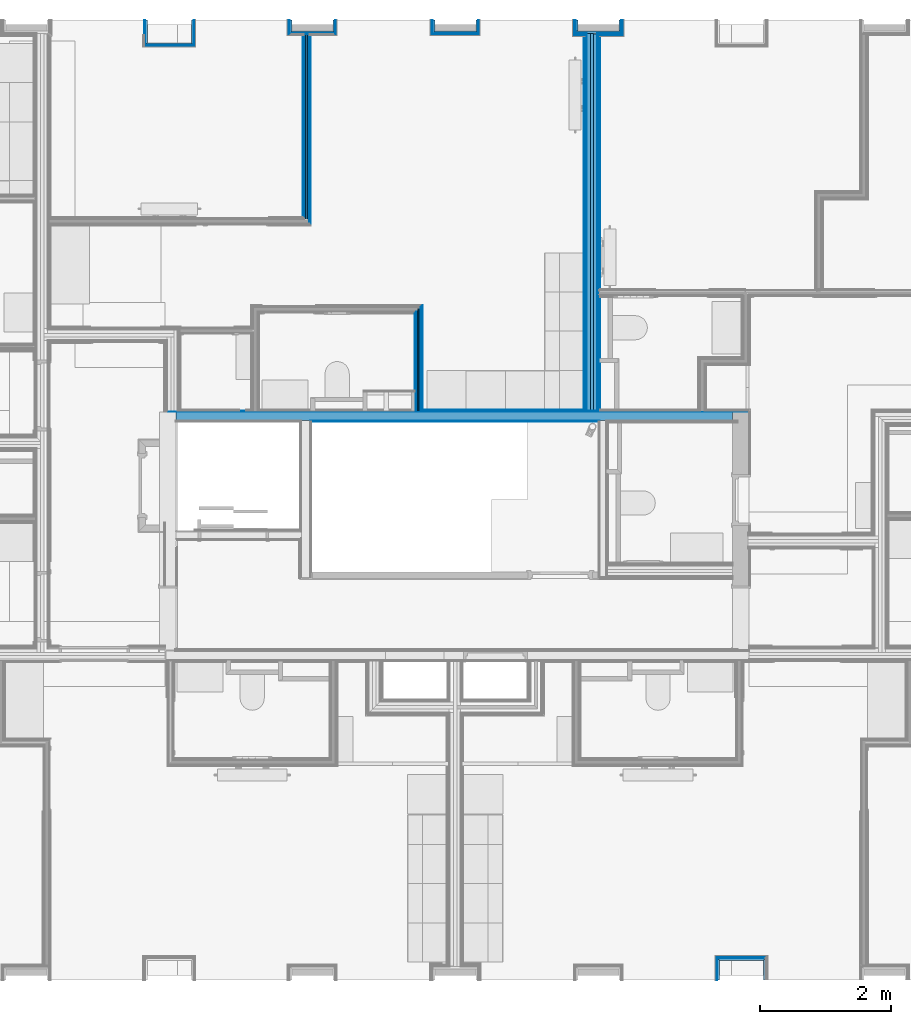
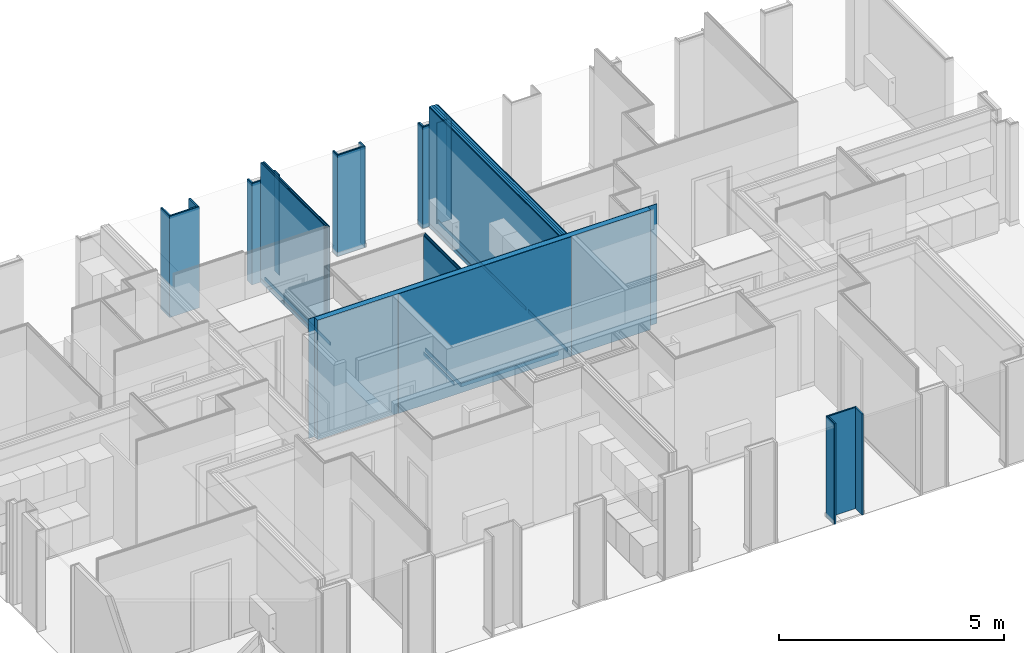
# One storey, part 20 of 65: 62 building element parts, 19 elements without a shape of their own.
"""IFC2X3 building model written with IfcOpenShell, lengths in metres."""

import ifcopenshell
import ifcopenshell.guid

model = None  # the IFC model being written
_history = None  # IfcOwnerHistory: only IFC2X3 demands one
_inside = {}  # id of a spatial element -> (the spatial element, [elements in it])
_under = {}  # id of a project, library or spatial element -> (it, [spatial elements below it])
_declared = {}  # id of a project -> (the project, [libraries it declares])
_typed = {}  # id of a type object -> (the type object, [elements of that type])
_made_of = {}  # id of a material, layer set ... -> (it, [elements and type objects made of it])


def new_model(schema):
    """Start an empty IFC model of exactly this schema.

    Asked for "IFC4X3", IfcOpenShell would pick the latest addendum, in which some entities
    have other attributes; the version numbers below select the first issue.
    IFC2X3 requires an IfcOwnerHistory on every rooted entity: one is made here for all.
    """
    global model, _history
    if schema == "IFC4X3":
        model = ifcopenshell.file(schema_version=(4, 3, 0, 0))
    else:
        model = ifcopenshell.file(schema=schema)
    _inside.clear()
    _under.clear()
    _declared.clear()
    _typed.clear()
    _made_of.clear()
    _history = None
    if model.schema == "IFC2X3":
        org = make("IfcOrganization", Name="unknown")
        user = make(
            "IfcPersonAndOrganization",
            ThePerson=make("IfcPerson", FamilyName="unknown"),
            TheOrganization=org,
        )
        app = make(
            "IfcApplication",
            ApplicationDeveloper=org,
            Version="unknown",
            ApplicationFullName="unknown",
            ApplicationIdentifier="unknown",
        )
        _history = make(
            "IfcOwnerHistory",
            OwningUser=user,
            OwningApplication=app,
            ChangeAction="ADDED",
            CreationDate=0,
        )
    return model


def make(cls, **values):
    """One entity of the class cls with the attributes given. An attribute that is None is left unset."""
    return model.create_entity(
        cls, **{name: value for name, value in values.items() if value is not None}
    )


def entity(cls, *values):
    """Any entity or typed value of the class cls, its attributes in the order of the schema. None: left unset."""
    e = model.create_entity(cls)
    for i, value in enumerate(values):
        if value is not None:
            e[i] = value
    return e


def rooted(cls, **values):
    """An entity with a GlobalId (a new one), such as an element, a storey or a relation."""
    return make(cls, GlobalId=ifcopenshell.guid.new(), OwnerHistory=_history, **values)


def si_unit(unit_type, name, prefix=None):
    """IfcSIUnit, for example si_unit("LENGTHUNIT", "METRE", prefix="MILLI")."""
    return make("IfcSIUnit", UnitType=unit_type, Prefix=prefix, Name=name)


def converted_unit(unit_type, name, factor, base, dimensions=None, offset=None):
    """IfcConversionBasedUnit, such as the inch: factor (a typed value) times the base unit."""
    return make(
        "IfcConversionBasedUnit"
        if offset is None
        else "IfcConversionBasedUnitWithOffset",
        ConversionOffset=offset,
        Dimensions=None
        if dimensions is None
        else entity("IfcDimensionalExponents", *dimensions),
        UnitType=unit_type,
        Name=name,
        ConversionFactor=make(
            "IfcMeasureWithUnit", ValueComponent=factor, UnitComponent=base
        ),
    )


def derived_unit(unit_type, elements):
    """IfcDerivedUnit: a product of units, each with its exponent."""
    return make(
        "IfcDerivedUnit",
        Elements=[
            make("IfcDerivedUnitElement", Unit=unit, Exponent=power)
            for unit, power in elements
        ],
        UnitType=unit_type,
    )


def money_unit(currency):
    """IfcMonetaryUnit."""
    return make("IfcMonetaryUnit", Currency=currency)


def assignment(units):
    """IfcUnitAssignment: the units of a project."""
    return None if units is None else make("IfcUnitAssignment", Units=units)


def point(xyz):
    """IfcCartesianPoint."""
    return None if xyz is None else make("IfcCartesianPoint", Coordinates=xyz)


def direction(xyz):
    """IfcDirection."""
    return None if xyz is None else make("IfcDirection", DirectionRatios=xyz)


def frame(location, z_axis=None, x_axis=None):
    """IfcAxis2Placement3D, a coordinate frame: its origin and axes. An axis left out is left unset."""
    return make(
        "IfcAxis2Placement3D",
        Location=point(location),
        Axis=direction(z_axis),
        RefDirection=direction(x_axis),
    )


def frame_2d(location, x_axis=None):
    """IfcAxis2Placement2D, a coordinate frame in the plane: its origin and x axis."""
    return make(
        "IfcAxis2Placement2D", Location=point(location), RefDirection=direction(x_axis)
    )


def origin_with_axes():
    """The frame at (0, 0, 0) with the z axis (0, 0, 1) and the x axis (1, 0, 0) written out."""
    return frame((0.0, 0.0, 0.0), z_axis=(0.0, 0.0, 1.0), x_axis=(1.0, 0.0, 0.0))


def place(relative_to, where):
    """IfcLocalPlacement: puts the frame where relative to a parent placement (None: the world)."""
    return make(
        "IfcLocalPlacement", PlacementRelTo=relative_to, RelativePlacement=where
    )


def context(
    kind, dimensions, precision=None, world=None, true_north=None, identifier=None
):
    """IfcGeometricRepresentationContext, for example the 3D "Model" context."""
    return make(
        "IfcGeometricRepresentationContext",
        ContextIdentifier=identifier,
        ContextType=kind,
        CoordinateSpaceDimension=dimensions,
        Precision=precision,
        WorldCoordinateSystem=world,
        TrueNorth=true_north,
    )


def subcontext(parent, identifier, kind, view, scale=None):
    """IfcGeometricRepresentationSubContext, for example "Body" below "Model"."""
    return make(
        "IfcGeometricRepresentationSubContext",
        ContextIdentifier=identifier,
        ContextType=kind,
        ParentContext=parent,
        TargetScale=scale,
        TargetView=view,
    )


def project(units=None, contexts=None):
    """IfcProject with its units and contexts."""
    return rooted(
        "IfcProject",
        Name="project",
        RepresentationContexts=contexts,
        UnitsInContext=assignment(units),
    )


def spatial(cls, under=None, at=None, **own):
    """A site, building, storey or space (cls), placed at a placement, below another one or the project."""
    s = rooted(cls, ObjectPlacement=at, **own)
    if under is not None:
        _under.setdefault(under.id(), (under, []))[1].append(s)
    return s


def polyline(points):
    """IfcPolyline through the points."""
    return make("IfcPolyline", Points=[point(p) for p in points])


def profile(cls, at=None, kind="AREA", **sizes):
    """A parametric profile (cls). Its sizes go by their IFC names, for example OverallWidth=200.0."""
    return make(cls, ProfileType=kind, Position=at, **sizes)


def rectangle(**sizes):
    """IfcRectangleProfileDef."""
    return profile("IfcRectangleProfileDef", **sizes)


def outline(outer, holes=None, kind="AREA"):
    """IfcArbitraryClosedProfileDef: a profile drawn as a closed curve; with holes, ...WithVoids."""
    if holes is None:
        return make("IfcArbitraryClosedProfileDef", ProfileType=kind, OuterCurve=outer)
    return make(
        "IfcArbitraryProfileDefWithVoids",
        ProfileType=kind,
        OuterCurve=outer,
        InnerCurves=holes,
    )


def extrude(swept, where, along, depth):
    """IfcExtrudedAreaSolid: the profile swept, set in the frame where, extruded along a direction by depth."""
    return make(
        "IfcExtrudedAreaSolid",
        SweptArea=swept,
        Position=where,
        ExtrudedDirection=direction(along),
        Depth=depth,
    )


def shape(context_of_items, identifier, shape_type, items):
    """IfcShapeRepresentation: the items that make up one representation, for example the "Body"."""
    return make(
        "IfcShapeRepresentation",
        ContextOfItems=context_of_items,
        RepresentationIdentifier=identifier,
        RepresentationType=shape_type,
        Items=items,
    )


def material(Name=None, Category=None):
    """IfcMaterial."""
    return make("IfcMaterial", Name=Name, Category=Category)


def made_of(thing, what):
    """Note that an element or type object is made of a material, layer set ...; save() writes the relation."""
    if what is not None:
        _made_of.setdefault(what.id(), (what, []))[1].append(thing)
    return thing


def type_object(cls, material=None, **own):
    """A type object (cls), such as IfcWallType, which elements share."""
    return made_of(rooted(cls, **own), material)


def element(
    cls,
    number,
    at=None,
    inside=None,
    cuts=None,
    type_object=None,
    material=None,
    context=None,
    identifier="Body",
    shape_type=None,
    held_by="IfcProductDefinitionShape",
    body=None,
    shapes=None,
    **own,
):
    """One element of the class cls, such as IfcWall. Its Tag is "e" and its number.

    at: its placement. inside: the storey or other place that contains it. cuts: it is an
    opening in that element (IfcRelVoidsElement). A single representation is given by context,
    identifier, shape_type and body (its items); several are given by shapes. held_by: the class
    of the entity that holds the representations. save() writes the other relations.
    """
    e = rooted(cls, Tag="e%d" % number, ObjectPlacement=at, **own)
    if body is not None:
        shapes = [shape(context, identifier, shape_type, body)]
    if shapes is not None:
        e.Representation = make(held_by, Representations=shapes)
    if inside is not None:
        _inside.setdefault(inside.id(), (inside, []))[1].append(e)
    if cuts is not None:
        rooted(
            "IfcRelVoidsElement", RelatingBuildingElement=cuts, RelatedOpeningElement=e
        )
    if type_object is not None:
        _typed.setdefault(type_object.id(), (type_object, []))[1].append(e)
    return made_of(e, material)


def aggregate(whole, parts):
    """IfcRelAggregates: a whole, such as a stair, and the parts it consists of."""
    return rooted("IfcRelAggregates", RelatingObject=whole, RelatedObjects=parts)


def save(model, path):
    """Write the relations noted so far, then the file.

    IfcRelAggregates (storeys below a building ...), IfcRelContainedInSpatialStructure (elements
    in a storey), IfcRelDefinesByType, IfcRelAssociatesMaterial and IfcRelDeclares: one each for
    every whole, place, type object, material and project.
    """
    for whole, parts in _under.values():
        aggregate(whole, parts)
    for where, things in _inside.values():
        rooted(
            "IfcRelContainedInSpatialStructure",
            RelatedElements=things,
            RelatingStructure=where,
        )
    for kind, things in _typed.values():
        rooted("IfcRelDefinesByType", RelatedObjects=things, RelatingType=kind)
    for what, things in _made_of.values():
        rooted("IfcRelAssociatesMaterial", RelatedObjects=things, RelatingMaterial=what)
    for by, libraries in _declared.values():
        rooted("IfcRelDeclares", RelatingContext=by, RelatedDefinitions=libraries)
    model.write(path)


model = new_model("IFC2X3")

# Units and contexts
model_context = context("Model", 3, precision=1e-05, world=origin_with_axes(), true_north=direction((0.0, 1.0)))
body_context = subcontext(model_context, "Body", "Model", "MODEL_VIEW", scale=1.0)
ifc_project = project(units=[si_unit("LENGTHUNIT", "METRE"), si_unit("AREAUNIT", "SQUARE_METRE"), si_unit("VOLUMEUNIT", "CUBIC_METRE"), si_unit("ABSORBEDDOSEUNIT", "GRAY"), si_unit("AMOUNTOFSUBSTANCEUNIT", "MOLE"), si_unit("DOSEEQUIVALENTUNIT", "SIEVERT"), si_unit("ELECTRICCAPACITANCEUNIT", "FARAD"), si_unit("ELECTRICCHARGEUNIT", "COULOMB"), si_unit("ELECTRICCONDUCTANCEUNIT", "SIEMENS"), si_unit("ELECTRICCURRENTUNIT", "AMPERE"), si_unit("ELECTRICRESISTANCEUNIT", "OHM"), si_unit("ELECTRICVOLTAGEUNIT", "VOLT"), si_unit("ENERGYUNIT", "JOULE"), si_unit("FORCEUNIT", "NEWTON"), si_unit("FREQUENCYUNIT", "HERTZ"), si_unit("ILLUMINANCEUNIT", "LUX"), si_unit("INDUCTANCEUNIT", "HENRY"), si_unit("LUMINOUSFLUXUNIT", "LUMEN"), si_unit("LUMINOUSINTENSITYUNIT", "CANDELA"), si_unit("MAGNETICFLUXDENSITYUNIT", "TESLA"), si_unit("MAGNETICFLUXUNIT", "WEBER"), si_unit("MASSUNIT", "GRAM"), converted_unit("PLANEANGLEUNIT", "degree", entity("IfcReal", 0.0174532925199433), si_unit("PLANEANGLEUNIT", "RADIAN"), dimensions=[0, 0, 0, 0, 0, 0, 0]), si_unit("POWERUNIT", "WATT"), si_unit("PRESSUREUNIT", "PASCAL"), si_unit("RADIOACTIVITYUNIT", "BECQUEREL"), si_unit("SOLIDANGLEUNIT", "STERADIAN"), si_unit("THERMODYNAMICTEMPERATUREUNIT", "KELVIN"), si_unit("TIMEUNIT", "SECOND"), derived_unit("ACCELERATIONUNIT", [(si_unit("LENGTHUNIT", "METRE"), 1), (si_unit("TIMEUNIT", "SECOND"), -2)]), derived_unit("ANGULARVELOCITYUNIT", [(converted_unit("PLANEANGLEUNIT", "degree", entity("IfcReal", 0.0174532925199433), si_unit("PLANEANGLEUNIT", "RADIAN"), dimensions=[0, 0, 0, 0, 0, 0, 0]), 1), (si_unit("TIMEUNIT", "SECOND"), -1)]), derived_unit("CURVATUREUNIT", [(converted_unit("PLANEANGLEUNIT", "degree", entity("IfcReal", 0.0174532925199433), si_unit("PLANEANGLEUNIT", "RADIAN"), dimensions=[0, 0, 0, 0, 0, 0, 0]), 1), (si_unit("LENGTHUNIT", "METRE"), -1)]), derived_unit("DYNAMICVISCOSITYUNIT", [(si_unit("PRESSUREUNIT", "PASCAL"), 1), (si_unit("TIMEUNIT", "SECOND"), 1)]), derived_unit("HEATFLUXDENSITYUNIT", [(si_unit("POWERUNIT", "WATT"), 1), (si_unit("LENGTHUNIT", "METRE"), -2)]), derived_unit("HEATINGVALUEUNIT", [(si_unit("ENERGYUNIT", "JOULE"), 1), (si_unit("MASSUNIT", "GRAM"), -1)]), derived_unit("INTEGERCOUNTRATEUNIT", [(si_unit("TIMEUNIT", "SECOND"), -1)]), derived_unit("IONCONCENTRATIONUNIT", [(si_unit("MASSUNIT", "GRAM"), 1), (si_unit("VOLUMEUNIT", "CUBIC_METRE"), -1)]), derived_unit("ISOTHERMALMOISTURECAPACITYUNIT", [(si_unit("VOLUMEUNIT", "CUBIC_METRE"), 1), (si_unit("MASSUNIT", "GRAM"), -1)]), derived_unit("KINEMATICVISCOSITYUNIT", [(si_unit("AREAUNIT", "SQUARE_METRE"), 1), (si_unit("TIMEUNIT", "SECOND"), -1)]), derived_unit("LINEARFORCEUNIT", [(si_unit("FORCEUNIT", "NEWTON"), 1), (si_unit("LENGTHUNIT", "METRE"), -1)]), derived_unit("LINEARMOMENTUNIT", [(si_unit("FORCEUNIT", "NEWTON"), 1), (si_unit("LENGTHUNIT", "METRE"), -1)]), derived_unit("LINEARSTIFFNESSUNIT", [(si_unit("FORCEUNIT", "NEWTON"), 1), (si_unit("LENGTHUNIT", "METRE"), -1)]), derived_unit("LINEARVELOCITYUNIT", [(si_unit("LENGTHUNIT", "METRE"), 1), (si_unit("TIMEUNIT", "SECOND"), -1)]), derived_unit("LUMINOUSINTENSITYDISTRIBUTIONUNIT", [(si_unit("LUMINOUSINTENSITYUNIT", "CANDELA"), 1), (si_unit("LUMINOUSFLUXUNIT", "LUMEN"), -1)]), derived_unit("MASSDENSITYUNIT", [(si_unit("MASSUNIT", "GRAM"), 1), (si_unit("VOLUMEUNIT", "CUBIC_METRE"), -1)]), derived_unit("MASSFLOWRATEUNIT", [(si_unit("MASSUNIT", "GRAM"), 1), (si_unit("TIMEUNIT", "SECOND"), -1)]), derived_unit("MASSPERLENGTHUNIT", [(si_unit("MASSUNIT", "GRAM"), 1), (si_unit("LENGTHUNIT", "METRE"), -1)]), derived_unit("MODULUSOFELASTICITYUNIT", [(si_unit("FORCEUNIT", "NEWTON"), 1), (si_unit("AREAUNIT", "SQUARE_METRE"), -1)]), derived_unit("MODULUSOFLINEARSUBGRADEREACTIONUNIT", [(si_unit("FORCEUNIT", "NEWTON"), 1), (si_unit("LENGTHUNIT", "METRE"), -2)]), derived_unit("MODULUSOFROTATIONALSUBGRADEREACTIONUNIT", [(si_unit("FORCEUNIT", "NEWTON"), 1), (si_unit("LENGTHUNIT", "METRE"), 1)]), derived_unit("MODULUSOFSUBGRADEREACTIONUNIT", [(si_unit("FORCEUNIT", "NEWTON"), 1), (si_unit("VOLUMEUNIT", "CUBIC_METRE"), -1)]), derived_unit("MOISTUREDIFFUSIVITYUNIT", [(si_unit("VOLUMEUNIT", "CUBIC_METRE"), 1), (si_unit("TIMEUNIT", "SECOND"), -1)]), derived_unit("MOLECULARWEIGHTUNIT", [(si_unit("MASSUNIT", "GRAM"), 1), (si_unit("AMOUNTOFSUBSTANCEUNIT", "MOLE"), -1)]), derived_unit("PLANARFORCEUNIT", [(si_unit("FORCEUNIT", "NEWTON"), 1), (si_unit("LENGTHUNIT", "METRE"), -2)]), derived_unit("ROTATIONALFREQUENCYUNIT", [(si_unit("TIMEUNIT", "SECOND"), -1)]), derived_unit("ROTATIONALMASSUNIT", [(si_unit("MASSUNIT", "GRAM"), 1), (si_unit("LENGTHUNIT", "METRE"), 2)]), derived_unit("ROTATIONALSTIFFNESSUNIT", [(si_unit("FORCEUNIT", "NEWTON"), 1), (si_unit("LENGTHUNIT", "METRE"), 1), (converted_unit("PLANEANGLEUNIT", "degree", entity("IfcReal", 0.0174532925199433), si_unit("PLANEANGLEUNIT", "RADIAN"), dimensions=[0, 0, 0, 0, 0, 0, 0]), -1)]), derived_unit("SECTIONAREAINTEGRALUNIT", [(si_unit("LENGTHUNIT", "METRE"), 5)]), derived_unit("SECTIONMODULUSUNIT", [(si_unit("LENGTHUNIT", "METRE"), 3)]), derived_unit("SHEARMODULUSUNIT", [(si_unit("FORCEUNIT", "NEWTON"), 1), (si_unit("AREAUNIT", "SQUARE_METRE"), -1)]), derived_unit("SOUNDPOWERUNIT", [(si_unit("ENERGYUNIT", "JOULE"), 1), (si_unit("TIMEUNIT", "SECOND"), -1)]), derived_unit("SPECIFICHEATCAPACITYUNIT", [(si_unit("FORCEUNIT", "NEWTON"), 1), (si_unit("MASSUNIT", "GRAM"), -1), (si_unit("THERMODYNAMICTEMPERATUREUNIT", "KELVIN"), -1)]), derived_unit("TEMPERATUREGRADIENTUNIT", [(si_unit("THERMODYNAMICTEMPERATUREUNIT", "KELVIN"), 1), (si_unit("LENGTHUNIT", "METRE"), -1)]), derived_unit("THERMALADMITTANCEUNIT", [(si_unit("POWERUNIT", "WATT"), 1), (si_unit("AREAUNIT", "SQUARE_METRE"), -1), (si_unit("THERMODYNAMICTEMPERATUREUNIT", "KELVIN"), -1)]), derived_unit("THERMALCONDUCTANCEUNIT", [(si_unit("POWERUNIT", "WATT"), 1), (si_unit("LENGTHUNIT", "METRE"), -1), (si_unit("THERMODYNAMICTEMPERATUREUNIT", "KELVIN"), -1)]), derived_unit("THERMALEXPANSIONCOEFFICIENTUNIT", [(si_unit("THERMODYNAMICTEMPERATUREUNIT", "KELVIN"), -1)]), derived_unit("THERMALRESISTANCEUNIT", [(si_unit("AREAUNIT", "SQUARE_METRE"), 1), (si_unit("POWERUNIT", "WATT"), -1)]), derived_unit("THERMALTRANSMITTANCEUNIT", [(si_unit("POWERUNIT", "WATT"), 1), (si_unit("AREAUNIT", "SQUARE_METRE"), -1), (si_unit("THERMODYNAMICTEMPERATUREUNIT", "KELVIN"), -1)]), derived_unit("TORQUEUNIT", [(si_unit("FORCEUNIT", "NEWTON"), 1), (si_unit("LENGTHUNIT", "METRE"), 1)]), derived_unit("VAPORPERMEABILITYUNIT", [(si_unit("MASSUNIT", "GRAM"), 1), (si_unit("TIMEUNIT", "SECOND"), -1)]), derived_unit("VOLUMETRICFLOWRATEUNIT", [(si_unit("VOLUMEUNIT", "CUBIC_METRE"), 1), (si_unit("TIMEUNIT", "SECOND"), -1)]), derived_unit("WARPINGCONSTANTUNIT", [(si_unit("LENGTHUNIT", "METRE"), 6)]), derived_unit("WARPINGMOMENTUNIT", [(si_unit("FORCEUNIT", "NEWTON"), 1), (si_unit("LENGTHUNIT", "METRE"), 2)]), money_unit("GBP")], contexts=[model_context])

# Site, building, storey
site_placement = place(None, origin_with_axes())
site = spatial("IfcSite", under=ifc_project, at=site_placement, Name="Site", CompositionType="ELEMENT")
building_placement = place(site_placement, origin_with_axes())
building = spatial("IfcBuilding", under=site, at=building_placement, Name="Building01", CompositionType="ELEMENT")
storey_placement = place(building_placement, frame((0.0, 0.0, 8.64), z_axis=(0.0, 0.0, 1.0), x_axis=(1.0, 0.0, 0.0)))
storey = spatial("IfcBuildingStorey", under=building, at=storey_placement, Name="2F", CompositionType="ELEMENT", Elevation=8.64)

# Wall, building element parts
wall_type_1 = type_object("IfcWallType", Name="SHE_A-Walls_Type06d_ExternalWallInsulation_48mm", PredefinedType="NOTDEFINED")
wall_1_placement = place(storey_placement, frame((17.55, 0.1, 0.0), z_axis=(0.0, 0.0, 1.0), x_axis=(0.0, 1.0, 0.0)))
wall_1 = element("IfcWall", 1, at=wall_1_placement, inside=storey, type_object=wall_type_1, Name="6D", ObjectType="SHE_A-Walls_Type06d_ExternalWallInsulation_48mm")
ifc_material_1 = material(Name="A_BSUK_Insulation")
placement_1 = place(wall_1_placement, origin_with_axes())
building_element_part_1 = element("IfcBuildingElementPart", 2, at=placement_1, material=ifc_material_1, Name="1", context=body_context, shape_type="SweptSolid", body=[
    extrude(outline(polyline([(0.336, 0.036), (0.0, 0.036), (0.0, 0.0), (0.3, 0.0), (0.336, 0.036)])), origin_with_axes(), (0.0, 0.0, 1.0), 2.74),
])
ifc_material_2 = material(Name="A_BSUK_WallInternal_Finishes_Plasterboard")
building_element_part_2 = element("IfcBuildingElementPart", 3, at=placement_1, material=ifc_material_2, Name="2", context=body_context, shape_type="SweptSolid", body=[
    extrude(outline(polyline([(0.348, 0.048), (0.0, 0.048), (0.0, 0.035), (0.335, 0.035), (0.348, 0.048)])), origin_with_axes(), (0.0, 0.0, 1.0), 2.74),
])
aggregate(wall_1, [building_element_part_1, building_element_part_2])

wall_2_placement = place(storey_placement, frame((17.55, 0.4, 0.0), z_axis=(0.0, 0.0, 1.0), x_axis=(1.0, 0.0, 0.0)))
wall_2 = element("IfcWall", 4, at=wall_2_placement, inside=storey, type_object=wall_type_1, Name="6D", ObjectType="SHE_A-Walls_Type06d_ExternalWallInsulation_48mm")
placement_2 = place(wall_2_placement, origin_with_axes())
building_element_part_3 = element("IfcBuildingElementPart", 5, at=placement_2, material=ifc_material_1, Name="1", context=body_context, shape_type="SweptSolid", body=[
    extrude(outline(polyline([(0.706, 0.036), (-0.036, 0.036), (0.0, 0.0), (0.67, 0.0), (0.706, 0.036)])), origin_with_axes(), (0.0, 0.0, 1.0), 2.74),
])
building_element_part_4 = element("IfcBuildingElementPart", 6, at=placement_2, material=ifc_material_2, Name="2", context=body_context, shape_type="SweptSolid", body=[
    extrude(outline(polyline([(0.718, 0.048), (-0.048, 0.048), (-0.035, 0.035), (0.705, 0.035), (0.718, 0.048)])), origin_with_axes(), (0.0, 0.0, 1.0), 2.74),
])
aggregate(wall_2, [building_element_part_3, building_element_part_4])

# Wall, building element part
wall_3_placement = place(storey_placement, frame((18.22, 0.4, 0.0), z_axis=(0.0, 0.0, 1.0), x_axis=(0.0, -1.0, 0.0)))
wall_3 = element("IfcWall", 7, at=wall_3_placement, inside=storey, type_object=wall_type_1, Name="6D", ObjectType="SHE_A-Walls_Type06d_ExternalWallInsulation_48mm")
building_element_part_5_placement = place(wall_3_placement, origin_with_axes())
building_element_part_5 = element("IfcBuildingElementPart", 8, at=building_element_part_5_placement, material=ifc_material_1, Name="1", context=body_context, shape_type="SweptSolid", body=[
    extrude(outline(polyline([(-0.036, 0.036), (0.0, 0.0), (0.3, 0.0), (0.3, 0.036), (-0.036, 0.036)])), origin_with_axes(), (0.0, 0.0, 1.0), 2.74),
])
aggregate(wall_3, [building_element_part_5])

# Wall, building element parts
wall_4_placement = place(storey_placement, frame((9.46, 14.8, 0.0), z_axis=(0.0, 0.0, 1.0), x_axis=(0.0, -1.0, 0.0)))
wall_4 = element("IfcWall", 9, at=wall_4_placement, inside=storey, type_object=wall_type_1, Name="6D", ObjectType="SHE_A-Walls_Type06d_ExternalWallInsulation_48mm")
placement_3 = place(wall_4_placement, origin_with_axes())
building_element_part_6 = element("IfcBuildingElementPart", 10, at=placement_3, material=ifc_material_1, Name="1", context=body_context, shape_type="SweptSolid", body=[
    extrude(outline(polyline([(0.386, 0.036), (0.0, 0.036), (0.0, 0.0), (0.35, 0.0), (0.386, 0.036)])), origin_with_axes(), (0.0, 0.0, 1.0), 2.74),
])
building_element_part_7 = element("IfcBuildingElementPart", 11, at=placement_3, material=ifc_material_2, Name="2", context=body_context, shape_type="SweptSolid", body=[
    extrude(outline(polyline([(0.398, 0.048), (0.0, 0.048), (0.0, 0.035), (0.385, 0.035), (0.398, 0.048)])), origin_with_axes(), (0.0, 0.0, 1.0), 2.74),
])
aggregate(wall_4, [building_element_part_6, building_element_part_7])

wall_5_placement = place(storey_placement, frame((9.46, 14.45, 0.0), z_axis=(0.0, 0.0, 1.0), x_axis=(-1.0, 0.0, 0.0)))
wall_5 = element("IfcWall", 12, at=wall_5_placement, inside=storey, type_object=wall_type_1, Name="6D", ObjectType="SHE_A-Walls_Type06d_ExternalWallInsulation_48mm")
placement_4 = place(wall_5_placement, origin_with_axes())
building_element_part_8 = element("IfcBuildingElementPart", 13, at=placement_4, material=ifc_material_1, Name="1", context=body_context, shape_type="SweptSolid", body=[
    extrude(outline(polyline([(0.706, 0.036), (-0.036, 0.036), (0.0, 0.0), (0.67, 0.0), (0.706, 0.036)])), origin_with_axes(), (0.0, 0.0, 1.0), 2.74),
])
building_element_part_9 = element("IfcBuildingElementPart", 14, at=placement_4, material=ifc_material_2, Name="2", context=body_context, shape_type="SweptSolid", body=[
    extrude(outline(polyline([(0.718, 0.048), (-0.048, 0.048), (-0.035, 0.035), (0.705, 0.035), (0.718, 0.048)])), origin_with_axes(), (0.0, 0.0, 1.0), 2.74),
])
aggregate(wall_5, [building_element_part_8, building_element_part_9])

wall_6_placement = place(storey_placement, frame((8.79, 14.45, 0.0), z_axis=(0.0, 0.0, 1.0), x_axis=(0.0, 1.0, 0.0)))
wall_6 = element("IfcWall", 15, at=wall_6_placement, inside=storey, type_object=wall_type_1, Name="6D", ObjectType="SHE_A-Walls_Type06d_ExternalWallInsulation_48mm")
placement_5 = place(wall_6_placement, origin_with_axes())
building_element_part_10 = element("IfcBuildingElementPart", 16, at=placement_5, material=ifc_material_1, Name="1", context=body_context, shape_type="SweptSolid", body=[
    extrude(outline(polyline([(-0.036, 0.036), (0.0, 0.0), (0.35, 0.0), (0.35, 0.036), (-0.036, 0.036)])), origin_with_axes(), (0.0, 0.0, 1.0), 2.74),
])
building_element_part_11 = element("IfcBuildingElementPart", 17, at=placement_5, material=ifc_material_2, Name="2", context=body_context, shape_type="SweptSolid", body=[
    extrude(outline(polyline([(-0.048, 0.048), (-0.035, 0.035), (0.35, 0.035), (0.35, 0.048), (-0.048, 0.048)])), origin_with_axes(), (0.0, 0.0, 1.0), 2.74),
])
aggregate(wall_6, [building_element_part_10, building_element_part_11])

wall_7_placement = place(storey_placement, frame((11.627, 14.8, 0.0), z_axis=(0.0, 0.0, 1.0), x_axis=(0.0, -1.0, 0.0)))
wall_7 = element("IfcWall", 18, at=wall_7_placement, inside=storey, type_object=wall_type_1, Name="6D", ObjectType="SHE_A-Walls_Type06d_ExternalWallInsulation_48mm")
placement_6 = place(wall_7_placement, origin_with_axes())
building_element_part_12 = element("IfcBuildingElementPart", 19, at=placement_6, material=ifc_material_1, Name="1", context=body_context, shape_type="SweptSolid", body=[
    extrude(outline(polyline([(0.206, 0.036), (0.0, 0.036), (0.0, 0.0), (0.17, 0.0), (0.206, 0.036)])), origin_with_axes(), (0.0, 0.0, 1.0), 2.74),
])
building_element_part_13 = element("IfcBuildingElementPart", 20, at=placement_6, material=ifc_material_2, Name="2", context=body_context, shape_type="SweptSolid", body=[
    extrude(outline(polyline([(0.218, 0.048), (0.0, 0.048), (0.0, 0.035), (0.205, 0.035), (0.218, 0.048)])), origin_with_axes(), (0.0, 0.0, 1.0), 2.74),
])
aggregate(wall_7, [building_element_part_12, building_element_part_13])

wall_8_placement = place(storey_placement, frame((11.003, 14.63, 0.0), z_axis=(0.0, 0.0, 1.0), x_axis=(0.0, 1.0, 0.0)))
wall_8 = element("IfcWall", 21, at=wall_8_placement, inside=storey, type_object=wall_type_1, Name="6D", ObjectType="SHE_A-Walls_Type06d_ExternalWallInsulation_48mm")
placement_7 = place(wall_8_placement, origin_with_axes())
building_element_part_14 = element("IfcBuildingElementPart", 22, at=placement_7, material=ifc_material_1, Name="1", context=body_context, shape_type="SweptSolid", body=[
    extrude(outline(polyline([(-0.036, 0.036), (0.0, 0.0), (0.17, 0.0), (0.17, 0.036), (-0.036, 0.036)])), origin_with_axes(), (0.0, 0.0, 1.0), 2.74),
])
building_element_part_15 = element("IfcBuildingElementPart", 23, at=placement_7, material=ifc_material_2, Name="2", context=body_context, shape_type="SweptSolid", body=[
    extrude(outline(polyline([(-0.048, 0.048), (-0.035, 0.035), (0.17, 0.035), (0.17, 0.048), (-0.048, 0.048)])), origin_with_axes(), (0.0, 0.0, 1.0), 2.74),
])
aggregate(wall_8, [building_element_part_14, building_element_part_15])

wall_9_placement = place(storey_placement, frame((13.817, 14.8, 0.0), z_axis=(0.0, 0.0, 1.0), x_axis=(0.0, -1.0, 0.0)))
wall_9 = element("IfcWall", 24, at=wall_9_placement, inside=storey, type_object=wall_type_1, Name="6D", ObjectType="SHE_A-Walls_Type06d_ExternalWallInsulation_48mm")
placement_8 = place(wall_9_placement, origin_with_axes())
building_element_part_16 = element("IfcBuildingElementPart", 25, at=placement_8, material=ifc_material_1, Name="1", context=body_context, shape_type="SweptSolid", body=[
    extrude(outline(polyline([(0.206, 0.036), (0.0, 0.036), (0.0, 0.0), (0.17, 0.0), (0.206, 0.036)])), origin_with_axes(), (0.0, 0.0, 1.0), 2.74),
])
building_element_part_17 = element("IfcBuildingElementPart", 26, at=placement_8, material=ifc_material_2, Name="2", context=body_context, shape_type="SweptSolid", body=[
    extrude(outline(polyline([(0.218, 0.048), (0.0, 0.048), (0.0, 0.035), (0.205, 0.035), (0.218, 0.048)])), origin_with_axes(), (0.0, 0.0, 1.0), 2.74),
])
aggregate(wall_9, [building_element_part_16, building_element_part_17])

wall_10_placement = place(storey_placement, frame((13.817, 14.63, 0.0), z_axis=(0.0, 0.0, 1.0), x_axis=(-1.0, 0.0, 0.0)))
wall_10 = element("IfcWall", 27, at=wall_10_placement, inside=storey, type_object=wall_type_1, Name="6D", ObjectType="SHE_A-Walls_Type06d_ExternalWallInsulation_48mm")
placement_9 = place(wall_10_placement, origin_with_axes())
building_element_part_18 = element("IfcBuildingElementPart", 28, at=placement_9, material=ifc_material_1, Name="1", context=body_context, shape_type="SweptSolid", body=[
    extrude(outline(polyline([(0.66, 0.036), (-0.036, 0.036), (0.0, 0.0), (0.624, 0.0), (0.66, 0.036)])), origin_with_axes(), (0.0, 0.0, 1.0), 2.74),
])
building_element_part_19 = element("IfcBuildingElementPart", 29, at=placement_9, material=ifc_material_2, Name="2", context=body_context, shape_type="SweptSolid", body=[
    extrude(outline(polyline([(0.672, 0.048), (-0.048, 0.048), (-0.035, 0.035), (0.659, 0.035), (0.672, 0.048)])), origin_with_axes(), (0.0, 0.0, 1.0), 2.74),
])
aggregate(wall_10, [building_element_part_18, building_element_part_19])

wall_11_placement = place(storey_placement, frame((13.193, 14.63, 0.0), z_axis=(0.0, 0.0, 1.0), x_axis=(0.0, 1.0, 0.0)))
wall_11 = element("IfcWall", 30, at=wall_11_placement, inside=storey, type_object=wall_type_1, Name="6D", ObjectType="SHE_A-Walls_Type06d_ExternalWallInsulation_48mm")
placement_10 = place(wall_11_placement, origin_with_axes())
building_element_part_20 = element("IfcBuildingElementPart", 31, at=placement_10, material=ifc_material_1, Name="1", context=body_context, shape_type="SweptSolid", body=[
    extrude(outline(polyline([(-0.036, 0.036), (0.0, 0.0), (0.17, 0.0), (0.17, 0.036), (-0.036, 0.036)])), origin_with_axes(), (0.0, 0.0, 1.0), 2.74),
])
building_element_part_21 = element("IfcBuildingElementPart", 32, at=placement_10, material=ifc_material_2, Name="2", context=body_context, shape_type="SweptSolid", body=[
    extrude(outline(polyline([(-0.048, 0.048), (-0.035, 0.035), (0.17, 0.035), (0.17, 0.048), (-0.048, 0.048)])), origin_with_axes(), (0.0, 0.0, 1.0), 2.74),
])
aggregate(wall_11, [building_element_part_20, building_element_part_21])

wall_type_2 = type_object("IfcWallType", Name="SHE_A-Walls_Type05a_Partition_95mm_tall", PredefinedType="NOTDEFINED")
wall_12_placement = place(storey_placement, frame((12.928585, 10.38, 0.0), z_axis=(0.0, 0.0, 1.0), x_axis=(0.0, -1.0, 0.0)))
wall_12 = element("IfcWall", 33, at=wall_12_placement, inside=storey, type_object=wall_type_2, Name="5A", ObjectType="SHE_A-Walls_Type05a_Partition_95mm_tall")
ifc_material_3 = material(Name="A_BSUK_Walls_Timber")
placement_11 = place(wall_12_placement, origin_with_axes())
building_element_part_22 = element("IfcBuildingElementPart", 34, at=placement_11, material=ifc_material_3, Name="1", context=body_context, shape_type="SweptSolid", body=[
    extrude(outline(polyline([(1.426872, -0.035), (0.06, -0.035), (0.075, -0.05), (1.426872, -0.05), (1.426872, -0.035)])), frame((0.0, 0.0, 0.015), z_axis=(0.0, 0.0, 1.0), x_axis=(1.0, 0.0, 0.0)), (0.0, 0.0, 1.0), 0.1),
])
building_element_part_23 = element("IfcBuildingElementPart", 35, at=placement_11, material=ifc_material_2, Name="2", context=body_context, shape_type="SweptSolid", body=[
    extrude(outline(polyline([(1.56, -0.023), (0.048, -0.023), (0.06, -0.035), (1.56, -0.035), (1.56, -0.023)])), origin_with_axes(), (0.0, 0.0, 1.0), 3.24),
])
ifc_material_4 = material(Name="Air Cavity")
building_element_part_24 = element("IfcBuildingElementPart", 36, at=placement_11, material=ifc_material_4, Name="3", context=body_context, shape_type="SweptSolid", body=[
    extrude(outline(polyline([(1.56, 0.0), (0.025, 0.0), (0.048, -0.023), (1.56, -0.023), (1.56, 0.0)])), origin_with_axes(), (0.0, 0.0, 1.0), 3.24),
])
building_element_part_25 = element("IfcBuildingElementPart", 37, at=placement_11, material=ifc_material_1, Name="4", context=body_context, shape_type="SweptSolid", body=[
    extrude(rectangle(XDim=1.56, YDim=0.025, at=frame_2d((0.78, 0.0125), x_axis=(-1.0, 0.0))), origin_with_axes(), (0.0, 0.0, 1.0), 3.24),
])
building_element_part_26 = element("IfcBuildingElementPart", 38, at=placement_11, material=ifc_material_4, Name="5", context=body_context, shape_type="SweptSolid", body=[
    extrude(rectangle(XDim=1.56, YDim=0.023, at=frame_2d((0.78, 0.0365), x_axis=(-1.0, 0.0))), origin_with_axes(), (0.0, 0.0, 1.0), 3.24),
])
building_element_part_27 = element("IfcBuildingElementPart", 39, at=placement_11, material=ifc_material_2, Name="6", context=body_context, shape_type="SweptSolid", body=[
    extrude(outline(polyline([(1.56, 0.06), (-0.035, 0.06), (-0.023, 0.048), (1.56, 0.048), (1.56, 0.06)])), origin_with_axes(), (0.0, 0.0, 1.0), 3.24),
])
building_element_part_28 = element("IfcBuildingElementPart", 40, at=placement_11, material=ifc_material_3, Name="7", context=body_context, shape_type="SweptSolid", body=[
    extrude(outline(polyline([(1.545, 0.075), (-0.05, 0.075), (-0.035, 0.06), (1.545, 0.06), (1.545, 0.075)])), frame((0.0, 0.0, 0.015), z_axis=(0.0, 0.0, 1.0), x_axis=(1.0, 0.0, 0.0)), (0.0, 0.0, 1.0), 0.1),
])
aggregate(wall_12, [building_element_part_22, building_element_part_23, building_element_part_24, building_element_part_25, building_element_part_26, building_element_part_27, building_element_part_28])

wall_type_3 = type_object("IfcWallType", Name="SHE_A-Walls_Type01c_Partywall_225mm_twin_tall", PredefinedType="NOTDEFINED")
wall_13_placement = place(storey_placement, frame((15.620132, 8.82, 0.0), z_axis=(0.0, 0.0, 1.0), x_axis=(0.0, 1.0, 0.0)))
wall_13 = element("IfcWall", 41, at=wall_13_placement, inside=storey, type_object=wall_type_3, Name="1C", ObjectType="SHE_A-Walls_Type01c_Partywall_225mm_twin_tall")
placement_12 = place(wall_13_placement, origin_with_axes())
building_element_part_29 = element("IfcBuildingElementPart", 42, at=placement_12, material=ifc_material_3, Name="1", context=body_context, shape_type="SweptSolid", body=[
    extrude(rectangle(XDim=1.75, YDim=0.015, at=frame_2d((0.875, -0.0955), x_axis=(-1.0, 0.0))), frame((0.0, 0.0, 0.015), z_axis=(0.0, 0.0, 1.0), x_axis=(1.0, 0.0, 0.0)), (0.0, 0.0, 1.0), 0.1),
])
building_element_part_30 = element("IfcBuildingElementPart", 43, at=placement_12, material=ifc_material_3, Name="2", context=body_context, shape_type="SweptSolid", body=[
    extrude(rectangle(XDim=3.902, YDim=0.015, at=frame_2d((3.796, -0.0955), x_axis=(-1.0, 0.0))), frame((0.0, 0.0, 0.015), z_axis=(0.0, 0.0, 1.0), x_axis=(1.0, 0.0, 0.0)), (0.0, 0.0, 1.0), 0.1),
])
building_element_part_31 = element("IfcBuildingElementPart", 44, at=placement_12, material=ifc_material_2, Name="3", context=body_context, shape_type="SweptSolid", body=[
    extrude(rectangle(XDim=5.747, YDim=0.015, at=frame_2d((2.8735, -0.0805), x_axis=(-1.0, 0.0))), origin_with_axes(), (0.0, 0.0, 1.0), 3.24),
])
building_element_part_32 = element("IfcBuildingElementPart", 45, at=placement_12, material=ifc_material_2, Name="4", context=body_context, shape_type="SweptSolid", body=[
    extrude(rectangle(XDim=5.762, YDim=0.015, at=frame_2d((2.881, -0.0655), x_axis=(-1.0, 0.0))), origin_with_axes(), (0.0, 0.0, 1.0), 3.24),
])
building_element_part_33 = element("IfcBuildingElementPart", 46, at=placement_12, material=ifc_material_4, Name="5", context=body_context, shape_type="SweptSolid", body=[
    extrude(rectangle(XDim=5.762, YDim=0.058, at=frame_2d((2.881, -0.029), x_axis=(-1.0, 0.0))), origin_with_axes(), (0.0, 0.0, 1.0), 3.24),
])
building_element_part_34 = element("IfcBuildingElementPart", 47, at=placement_12, material=ifc_material_1, Name="6", context=body_context, shape_type="SweptSolid", body=[
    extrude(rectangle(XDim=5.774, YDim=0.05, at=frame_2d((2.887, 0.025), x_axis=(-1.0, 0.0))), origin_with_axes(), (0.0, 0.0, 1.0), 3.24),
])
building_element_part_35 = element("IfcBuildingElementPart", 48, at=placement_12, material=ifc_material_4, Name="7", context=body_context, shape_type="SweptSolid", body=[
    extrude(rectangle(XDim=5.774, YDim=0.057, at=frame_2d((2.887, 0.0785), x_axis=(-1.0, 0.0))), origin_with_axes(), (0.0, 0.0, 1.0), 3.24),
])
building_element_part_36 = element("IfcBuildingElementPart", 49, at=placement_12, material=ifc_material_2, Name="8", context=body_context, shape_type="SweptSolid", body=[
    extrude(rectangle(XDim=5.762, YDim=0.015, at=frame_2d((2.881, 0.1145), x_axis=(-1.0, 0.0))), origin_with_axes(), (0.0, 0.0, 1.0), 3.24),
])
building_element_part_37 = element("IfcBuildingElementPart", 50, at=placement_12, material=ifc_material_2, Name="9", context=body_context, shape_type="SweptSolid", body=[
    extrude(rectangle(XDim=5.747, YDim=0.015, at=frame_2d((2.8735, 0.1295), x_axis=(-1.0, 0.0))), origin_with_axes(), (0.0, 0.0, 1.0), 3.24),
])
building_element_part_38 = element("IfcBuildingElementPart", 51, at=placement_12, material=ifc_material_3, Name="10", context=body_context, shape_type="SweptSolid", body=[
    extrude(rectangle(XDim=5.717, YDim=0.015, at=frame_2d((2.8735, 0.1445), x_axis=(-1.0, 0.0))), frame((0.0, 0.0, 0.015), z_axis=(0.0, 0.0, 1.0), x_axis=(1.0, 0.0, 0.0)), (0.0, 0.0, 1.0), 0.1),
])
aggregate(wall_13, [building_element_part_29, building_element_part_30, building_element_part_31, building_element_part_32, building_element_part_33, building_element_part_34, building_element_part_35, building_element_part_36, building_element_part_37, building_element_part_38])

wall_14_placement = place(storey_placement, frame((11.627, 14.63, 0.0), z_axis=(0.0, 0.0, 1.0), x_axis=(-1.0, 0.0, 0.0)))
wall_14 = element("IfcWall", 52, at=wall_14_placement, inside=storey, type_object=wall_type_1, Name="6D", ObjectType="SHE_A-Walls_Type06d_ExternalWallInsulation_48mm")
placement_13 = place(wall_14_placement, origin_with_axes())
building_element_part_39 = element("IfcBuildingElementPart", 53, at=placement_13, material=ifc_material_1, Name="1", context=body_context, shape_type="SweptSolid", body=[
    extrude(outline(polyline([(0.66, 0.036), (-0.036, 0.036), (0.0, 0.0), (0.624, 0.0), (0.66, 0.036)])), origin_with_axes(), (0.0, 0.0, 1.0), 2.74),
])
building_element_part_40 = element("IfcBuildingElementPart", 54, at=placement_13, material=ifc_material_2, Name="2", context=body_context, shape_type="SweptSolid", body=[
    extrude(outline(polyline([(0.672, 0.048), (-0.048, 0.048), (-0.035, 0.035), (0.659, 0.035), (0.672, 0.048)])), origin_with_axes(), (0.0, 0.0, 1.0), 2.74),
])
aggregate(wall_14, [building_element_part_39, building_element_part_40])

wall_type_4 = type_object("IfcWallType", Name="SHE_A-Walls_Type03a_BlockworkWall_170mm", PredefinedType="NOTDEFINED")
wall_15_placement = place(storey_placement, frame((17.75, 8.805, 0.0), z_axis=(0.0, 0.0, 1.0), x_axis=(-1.0, 0.0, 0.0)))
wall_15 = element("IfcWall", 55, at=wall_15_placement, inside=storey, type_object=wall_type_4, Name="4B", ObjectType="SHE_A-Walls_Type03a_BlockworkWall_170mm")
placement_14 = place(wall_15_placement, origin_with_axes())
building_element_part_41 = element("IfcBuildingElementPart", 56, at=placement_14, material=ifc_material_3, Name="2", context=body_context, shape_type="SweptSolid", body=[
    extrude(rectangle(XDim=2.494547, YDim=0.015, at=frame_2d((3.514142, -0.0225), x_axis=(-1.0, 0.0))), frame((0.0, 0.0, 0.015), z_axis=(0.0, 0.0, 1.0), x_axis=(1.0, 0.0, 0.0)), (0.0, 0.0, 1.0), 0.1),
])
building_element_part_42 = element("IfcBuildingElementPart", 57, at=placement_14, material=ifc_material_2, Name="7", context=body_context, shape_type="SweptSolid", body=[
    extrude(rectangle(XDim=8.925, YDim=0.015, at=frame_2d((4.2125, -0.0075), x_axis=(-1.0, 0.0))), origin_with_axes(), (0.0, 0.0, 1.0), 3.24),
])
ifc_material_5 = material(Name="A_BSUK_WallsInternal_Block")
building_element_part_43 = element("IfcBuildingElementPart", 58, at=placement_14, material=ifc_material_5, Name="8", context=body_context, shape_type="SweptSolid", body=[
    extrude(rectangle(XDim=0.14, YDim=8.524787, at=frame_2d((4.262394, 0.07), x_axis=(0.0, -1.0))), origin_with_axes(), (0.0, 0.0, 1.0), 3.24),
])
ifc_material_6 = material(Name="A_BSUK_WallInternal_Finishes_Plaster")
building_element_part_44 = element("IfcBuildingElementPart", 59, at=placement_14, material=ifc_material_6, Name="11", context=body_context, shape_type="SweptSolid", body=[
    extrude(rectangle(XDim=4.43, YDim=0.015, at=frame_2d((4.25, 0.1475), x_axis=(-1.0, 0.0))), origin_with_axes(), (0.0, 0.0, 1.0), 3.24),
])
aggregate(wall_15, [building_element_part_41, building_element_part_42, building_element_part_43, building_element_part_44])

wall_16_placement = place(storey_placement, frame((11.24, 11.728124, 0.0), z_axis=(0.0, 0.0, 1.0), x_axis=(0.0, 1.0, 0.0)))
wall_16 = element("IfcWall", 60, at=wall_16_placement, inside=storey, type_object=wall_type_2, Name="5A", ObjectType="SHE_A-Walls_Type05a_Partition_95mm_tall")
placement_15 = place(wall_16_placement, origin_with_axes())
building_element_part_45 = element("IfcBuildingElementPart", 61, at=placement_15, material=ifc_material_3, Name="1", context=body_context, shape_type="SweptSolid", body=[
    extrude(outline(polyline([(2.838876, -0.035), (-0.06, -0.035), (-0.075, -0.05), (2.838876, -0.05), (2.838876, -0.035)])), frame((0.0, 0.0, 0.015), z_axis=(0.0, 0.0, 1.0), x_axis=(1.0, 0.0, 0.0)), (0.0, 0.0, 1.0), 0.1),
])
building_element_part_46 = element("IfcBuildingElementPart", 62, at=placement_15, material=ifc_material_2, Name="2", context=body_context, shape_type="SweptSolid", body=[
    extrude(outline(polyline([(2.853876, -0.023), (-0.048, -0.023), (-0.06, -0.035), (2.853876, -0.035), (2.853876, -0.023)])), origin_with_axes(), (0.0, 0.0, 1.0), 3.24),
])
building_element_part_47 = element("IfcBuildingElementPart", 63, at=placement_15, material=ifc_material_4, Name="3", context=body_context, shape_type="SweptSolid", body=[
    extrude(outline(polyline([(2.853876, 0.0), (-0.025, 0.0), (-0.048, -0.023), (2.853876, -0.023), (2.853876, 0.0)])), origin_with_axes(), (0.0, 0.0, 1.0), 3.24),
])
building_element_part_48 = element("IfcBuildingElementPart", 64, at=placement_15, material=ifc_material_1, Name="4", context=body_context, shape_type="SweptSolid", body=[
    extrude(rectangle(XDim=2.853876, YDim=0.025, at=frame_2d((1.426938, 0.0125), x_axis=(-1.0, 0.0))), origin_with_axes(), (0.0, 0.0, 1.0), 3.24),
])
building_element_part_49 = element("IfcBuildingElementPart", 65, at=placement_15, material=ifc_material_4, Name="5", context=body_context, shape_type="SweptSolid", body=[
    extrude(rectangle(XDim=2.853876, YDim=0.023, at=frame_2d((1.426938, 0.0365), x_axis=(-1.0, 0.0))), origin_with_axes(), (0.0, 0.0, 1.0), 3.24),
])
building_element_part_50 = element("IfcBuildingElementPart", 66, at=placement_15, material=ifc_material_2, Name="6", context=body_context, shape_type="SweptSolid", body=[
    extrude(outline(polyline([(2.853876, 0.06), (0.035, 0.06), (0.023, 0.048), (2.853876, 0.048), (2.853876, 0.06)])), origin_with_axes(), (0.0, 0.0, 1.0), 3.24),
])
building_element_part_51 = element("IfcBuildingElementPart", 67, at=placement_15, material=ifc_material_3, Name="7", context=body_context, shape_type="SweptSolid", body=[
    extrude(outline(polyline([(2.838876, 0.075), (0.05, 0.075), (0.035, 0.06), (2.838876, 0.06), (2.838876, 0.075)])), frame((0.0, 0.0, 0.015), z_axis=(0.0, 0.0, 1.0), x_axis=(1.0, 0.0, 0.0)), (0.0, 0.0, 1.0), 0.1),
])
aggregate(wall_16, [building_element_part_45, building_element_part_46, building_element_part_47, building_element_part_48, building_element_part_49, building_element_part_50, building_element_part_51])

wall_type_5 = type_object("IfcWallType", Name="SHE_A-Walls_Type06f_ExternalWallInsulation_48+15mm", PredefinedType="NOTDEFINED")
wall_17_placement = place(storey_placement, frame((15.383, 14.63, 0.0), z_axis=(0.0, 0.0, 1.0), x_axis=(0.0, 1.0, 0.0)))
wall_17 = element("IfcWall", 68, at=wall_17_placement, inside=storey, type_object=wall_type_5, Name="6F", ObjectType="SHE_A-Walls_Type06f_ExternalWallInsulation_48+15mm")
placement_16 = place(wall_17_placement, origin_with_axes())
building_element_part_52 = element("IfcBuildingElementPart", 69, at=placement_16, material=ifc_material_1, Name="1", context=body_context, shape_type="SweptSolid", body=[
    extrude(rectangle(XDim=0.17, YDim=0.036, at=frame_2d((0.085, 0.018), x_axis=(-1.0, 0.0))), origin_with_axes(), (0.0, 0.0, 1.0), 2.74),
])
building_element_part_53 = element("IfcBuildingElementPart", 70, at=placement_16, material=ifc_material_2, Name="2", context=body_context, shape_type="SweptSolid", body=[
    extrude(rectangle(XDim=0.206, YDim=0.012, at=frame_2d((0.067, 0.042), x_axis=(-1.0, 0.0))), origin_with_axes(), (0.0, 0.0, 1.0), 2.74),
])
building_element_part_54 = element("IfcBuildingElementPart", 71, at=placement_16, material=ifc_material_2, Name="3", context=body_context, shape_type="SweptSolid", body=[
    extrude(outline(polyline([(0.17, 0.063), (-0.063, 0.063), (-0.048, 0.048), (0.17, 0.048), (0.17, 0.063)])), origin_with_axes(), (0.0, 0.0, 1.0), 2.74),
])
aggregate(wall_17, [building_element_part_52, building_element_part_53, building_element_part_54])

wall_18_placement = place(storey_placement, frame((16.043124, 14.63, 0.0), z_axis=(0.0, 0.0, 1.0), x_axis=(-1.0, 0.0, 0.0)))
wall_18 = element("IfcWall", 72, at=wall_18_placement, inside=storey, type_object=wall_type_5, Name="6F", ObjectType="SHE_A-Walls_Type06f_ExternalWallInsulation_48+15mm")
placement_17 = place(wall_18_placement, origin_with_axes())
building_element_part_55 = element("IfcBuildingElementPart", 73, at=placement_17, material=ifc_material_1, Name="1", context=body_context, shape_type="SweptSolid", body=[
    extrude(rectangle(XDim=0.696124, YDim=0.036, at=frame_2d((0.348062, 0.018), x_axis=(-1.0, 0.0))), origin_with_axes(), (0.0, 0.0, 1.0), 2.74),
])
building_element_part_56 = element("IfcBuildingElementPart", 74, at=placement_17, material=ifc_material_2, Name="2", context=body_context, shape_type="SweptSolid", body=[
    extrude(rectangle(XDim=0.178132, YDim=0.012, at=frame_2d((0.619058, 0.042), x_axis=(-1.0, 0.0))), origin_with_axes(), (0.0, 0.0, 1.0), 2.74),
])
building_element_part_57 = element("IfcBuildingElementPart", 75, at=placement_17, material=ifc_material_2, Name="3", context=body_context, shape_type="SweptSolid", body=[
    extrude(rectangle(XDim=0.364992, YDim=0.012, at=frame_2d((0.182496, 0.042), x_axis=(-1.0, 0.0))), origin_with_axes(), (0.0, 0.0, 1.0), 2.74),
])
building_element_part_58 = element("IfcBuildingElementPart", 76, at=placement_17, material=ifc_material_2, Name="4", context=body_context, shape_type="SweptSolid", body=[
    extrude(outline(polyline([(0.349992, 0.063), (-0.027, 0.063), (-0.012, 0.048), (0.349992, 0.048), (0.349992, 0.063)])), origin_with_axes(), (0.0, 0.0, 1.0), 2.74),
])
building_element_part_59 = element("IfcBuildingElementPart", 77, at=placement_17, material=ifc_material_2, Name="5", context=body_context, shape_type="SweptSolid", body=[
    extrude(outline(polyline([(0.723124, 0.063), (0.544992, 0.063), (0.544992, 0.048), (0.708124, 0.048), (0.723124, 0.063)])), origin_with_axes(), (0.0, 0.0, 1.0), 2.74),
])
aggregate(wall_18, [building_element_part_55, building_element_part_56, building_element_part_57, building_element_part_58, building_element_part_59])

wall_19_placement = place(storey_placement, frame((16.007124, 14.63, 0.0), z_axis=(0.0, 0.0, 1.0), x_axis=(0.0, 1.0, 0.0)))
wall_19 = element("IfcWall", 78, at=wall_19_placement, inside=storey, type_object=wall_type_5, Name="6F", ObjectType="SHE_A-Walls_Type06f_ExternalWallInsulation_48+15mm")
placement_18 = place(wall_19_placement, origin_with_axes())
building_element_part_60 = element("IfcBuildingElementPart", 79, at=placement_18, material=ifc_material_2, Name="2", context=body_context, shape_type="SweptSolid", body=[
    extrude(outline(polyline([(0.17, -0.048), (-0.048, -0.048), (-0.063, -0.063), (0.17, -0.063), (0.17, -0.048)])), origin_with_axes(), (0.0, 0.0, 1.0), 2.74),
])
building_element_part_61 = element("IfcBuildingElementPart", 80, at=placement_18, material=ifc_material_2, Name="3", context=body_context, shape_type="SweptSolid", body=[
    extrude(rectangle(XDim=0.218, YDim=0.012, at=frame_2d((0.061, -0.042), x_axis=(-1.0, 0.0))), origin_with_axes(), (0.0, 0.0, 1.0), 2.74),
])
building_element_part_62 = element("IfcBuildingElementPart", 81, at=placement_18, material=ifc_material_1, Name="4", context=body_context, shape_type="SweptSolid", body=[
    extrude(rectangle(XDim=0.17, YDim=0.036, at=frame_2d((0.085, -0.018), x_axis=(-1.0, 0.0))), origin_with_axes(), (0.0, 0.0, 1.0), 2.74),
])
aggregate(wall_19, [building_element_part_60, building_element_part_61, building_element_part_62])

save(model, "model.ifc")
